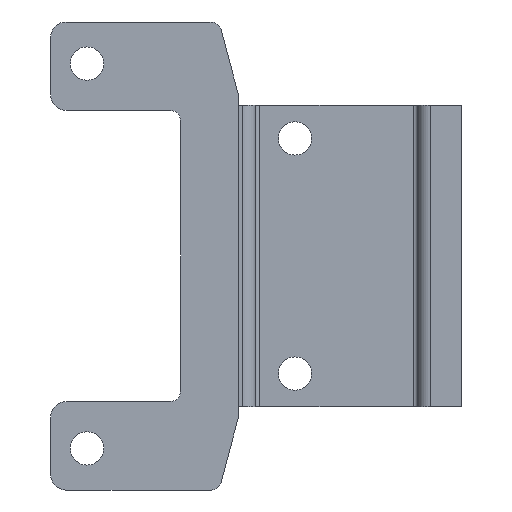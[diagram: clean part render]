
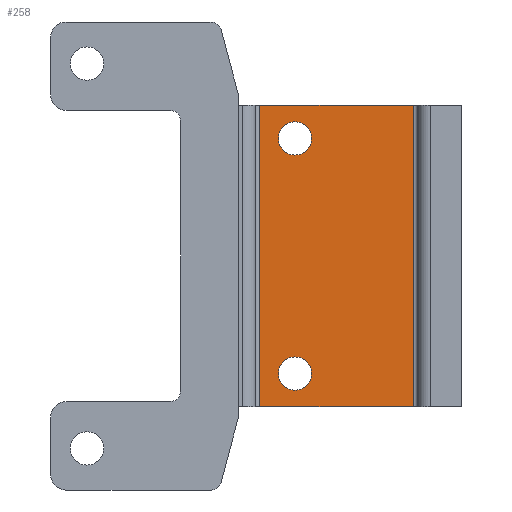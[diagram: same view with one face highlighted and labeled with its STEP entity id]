
A CAD part, left-side view. The second image highlights one B-rep face of the part: STEP entity #258.
In plain terms, the highlighted planar face has unit normal (-1, 0, 0).
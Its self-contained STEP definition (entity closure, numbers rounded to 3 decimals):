
#36 = AXIS2_PLACEMENT_3D ( 'NONE', #49, #479, #1129 ) ;
#49 = CARTESIAN_POINT ( 'NONE',  ( -8.7, 16.7, 11.3 ) ) ;
#57 = CARTESIAN_POINT ( 'NONE',  ( -8.7, 20.1, -14.5 ) ) ;
#60 = DIRECTION ( 'NONE',  ( 0., 1., 0. ) ) ;
#88 = CARTESIAN_POINT ( 'NONE',  ( -8.7, 20.1, 14.5 ) ) ;
#108 = CARTESIAN_POINT ( 'NONE',  ( -8.7, 16.7, -9.7 ) ) ;
#113 = VERTEX_POINT ( 'NONE', #108 ) ;
#134 = ORIENTED_EDGE ( 'NONE', *, *, #1171, .F. ) ;
#168 = DIRECTION ( 'NONE',  ( 1., 0., 0. ) ) ;
#177 = CIRCLE ( 'NONE', #36, 1.6 ) ;
#179 = CARTESIAN_POINT ( 'NONE',  ( -8.7, 16.7, -12.9 ) ) ;
#196 = CARTESIAN_POINT ( 'NONE',  ( -8.7, 20.1, -14.5 ) ) ;
#201 = DIRECTION ( 'NONE',  ( 0., 0., -1. ) ) ;
#224 = CARTESIAN_POINT ( 'NONE',  ( -8.7, 20.1, 14.5 ) ) ;
#258 = ADVANCED_FACE ( 'NONE', ( #421, #948, #1467 ), #294, .F. ) ;
#274 = DIRECTION ( 'NONE',  ( 0., 1., 0. ) ) ;
#292 = AXIS2_PLACEMENT_3D ( 'NONE', #1485, #168, #814 ) ;
#294 = PLANE ( 'NONE',  #292 ) ;
#326 = LINE ( 'NONE', #224, #1539 ) ;
#381 = CIRCLE ( 'NONE', #1477, 1.6 ) ;
#412 = DIRECTION ( 'NONE',  ( -1., 0., 0. ) ) ;
#421 = FACE_OUTER_BOUND ( 'NONE', #633, .T. ) ;
#437 = EDGE_CURVE ( 'NONE', #113, #779, #1089, .T. ) ;
#479 = DIRECTION ( 'NONE',  ( -1., 0., 0. ) ) ;
#482 = CARTESIAN_POINT ( 'NONE',  ( -8.7, 16.7, -11.3 ) ) ;
#506 = VERTEX_POINT ( 'NONE', #552 ) ;
#530 = ORIENTED_EDGE ( 'NONE', *, *, #1681, .F. ) ;
#534 = EDGE_LOOP ( 'NONE', ( #1115, #134 ) ) ;
#544 = CARTESIAN_POINT ( 'NONE',  ( -8.7, 16.7, -11.3 ) ) ;
#552 = CARTESIAN_POINT ( 'NONE',  ( -8.7, 5.3, -14.5 ) ) ;
#633 = EDGE_LOOP ( 'NONE', ( #794, #1189, #1325, #846 ) ) ;
#666 = EDGE_LOOP ( 'NONE', ( #1243, #530 ) ) ;
#690 = EDGE_CURVE ( 'NONE', #858, #506, #1361, .T. ) ;
#713 = CARTESIAN_POINT ( 'NONE',  ( -8.7, 16.7, 11.3 ) ) ;
#772 = EDGE_CURVE ( 'NONE', #1146, #1555, #177, .T. ) ;
#779 = VERTEX_POINT ( 'NONE', #179 ) ;
#783 = AXIS2_PLACEMENT_3D ( 'NONE', #544, #412, #274 ) ;
#794 = ORIENTED_EDGE ( 'NONE', *, *, #690, .T. ) ;
#814 = DIRECTION ( 'NONE',  ( 0., 0., 1. ) ) ;
#842 = DIRECTION ( 'NONE',  ( 0., -1., 0. ) ) ;
#846 = ORIENTED_EDGE ( 'NONE', *, *, #1634, .T. ) ;
#858 = VERTEX_POINT ( 'NONE', #196 ) ;
#948 = FACE_BOUND ( 'NONE', #666, .T. ) ;
#976 = EDGE_CURVE ( 'NONE', #1521, #506, #1003, .T. ) ;
#1003 = LINE ( 'NONE', #1400, #1394 ) ;
#1032 = VERTEX_POINT ( 'NONE', #88 ) ;
#1045 = CIRCLE ( 'NONE', #783, 1.6 ) ;
#1059 = CARTESIAN_POINT ( 'NONE',  ( -8.7, 5.3, 14.5 ) ) ;
#1089 = CIRCLE ( 'NONE', #1663, 1.6 ) ;
#1115 = ORIENTED_EDGE ( 'NONE', *, *, #437, .F. ) ;
#1129 = DIRECTION ( 'NONE',  ( 0., 1., 0. ) ) ;
#1146 = VERTEX_POINT ( 'NONE', #1594 ) ;
#1166 = DIRECTION ( 'NONE',  ( -1., 0., 0. ) ) ;
#1171 = EDGE_CURVE ( 'NONE', #779, #113, #1045, .T. ) ;
#1189 = ORIENTED_EDGE ( 'NONE', *, *, #976, .F. ) ;
#1243 = ORIENTED_EDGE ( 'NONE', *, *, #772, .F. ) ;
#1249 = DIRECTION ( 'NONE',  ( -1., 0., 0. ) ) ;
#1325 = ORIENTED_EDGE ( 'NONE', *, *, #1602, .F. ) ;
#1361 = LINE ( 'NONE', #57, #1671 ) ;
#1394 = VECTOR ( 'NONE', #1694, 1000. ) ;
#1400 = CARTESIAN_POINT ( 'NONE',  ( -8.7, 5.3, 14.5 ) ) ;
#1405 = DIRECTION ( 'NONE',  ( 0., 1., 0. ) ) ;
#1467 = FACE_BOUND ( 'NONE', #534, .T. ) ;
#1477 = AXIS2_PLACEMENT_3D ( 'NONE', #713, #1249, #60 ) ;
#1485 = CARTESIAN_POINT ( 'NONE',  ( -8.7, 20.1, 14.5 ) ) ;
#1506 = VECTOR ( 'NONE', #201, 1000. ) ;
#1521 = VERTEX_POINT ( 'NONE', #1059 ) ;
#1536 = CARTESIAN_POINT ( 'NONE',  ( -8.7, 20.1, 14.5 ) ) ;
#1539 = VECTOR ( 'NONE', #1665, 1000. ) ;
#1555 = VERTEX_POINT ( 'NONE', #1581 ) ;
#1581 = CARTESIAN_POINT ( 'NONE',  ( -8.7, 16.7, 9.7 ) ) ;
#1594 = CARTESIAN_POINT ( 'NONE',  ( -8.7, 16.7, 12.9 ) ) ;
#1602 = EDGE_CURVE ( 'NONE', #1032, #1521, #326, .T. ) ;
#1628 = LINE ( 'NONE', #1536, #1506 ) ;
#1634 = EDGE_CURVE ( 'NONE', #1032, #858, #1628, .T. ) ;
#1663 = AXIS2_PLACEMENT_3D ( 'NONE', #482, #1166, #1405 ) ;
#1665 = DIRECTION ( 'NONE',  ( 0., -1., 0. ) ) ;
#1671 = VECTOR ( 'NONE', #842, 1000. ) ;
#1681 = EDGE_CURVE ( 'NONE', #1555, #1146, #381, .T. ) ;
#1694 = DIRECTION ( 'NONE',  ( 0., 0., -1. ) ) ;
